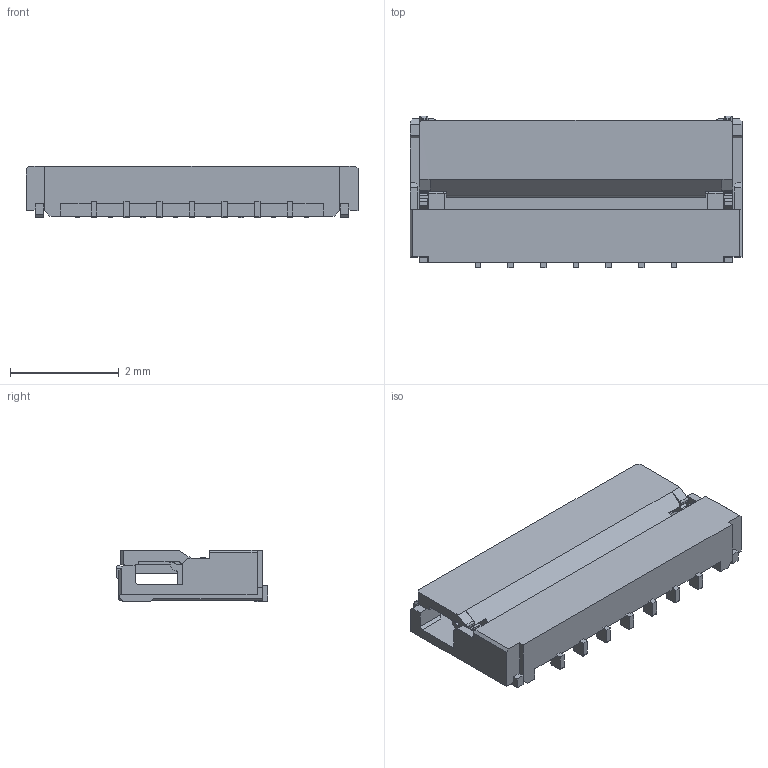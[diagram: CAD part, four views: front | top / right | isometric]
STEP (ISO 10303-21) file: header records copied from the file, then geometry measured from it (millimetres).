
FILE_DESCRIPTION (( 'STEP AP214' ), '1' );
FILE_NAME ('006844715002.STEP', '2023-03-27T01:06:28', ( '' ), ( '' ), 'SwSTEP 2.0', 'SolidWorks 2021', '' );
FILE_SCHEMA (( 'AUTOMOTIVE_DESIGN' ));
Length unit declared in the file: millimetre
Products named in the file (1): 006844715002
Bounding box: 6.1 x 2.79 x 0.95 mm (x, y, z)
Volume: 10.2 mm3; surface area: 71.7 mm2
Topology: 1 solids, 1 shells, 430 faces, 1272 edges, 842 vertices
Faces by surface type: plane 347, cylinder 83
Entity records: 14246 total; most frequent: CARTESIAN_POINT 2615, ORIENTED_EDGE 2544, DIRECTION 2270, EDGE_CURVE 1272, VECTOR 1076, LINE 1076, VERTEX_POINT 842, AXIS2_PLACEMENT_3D 597
